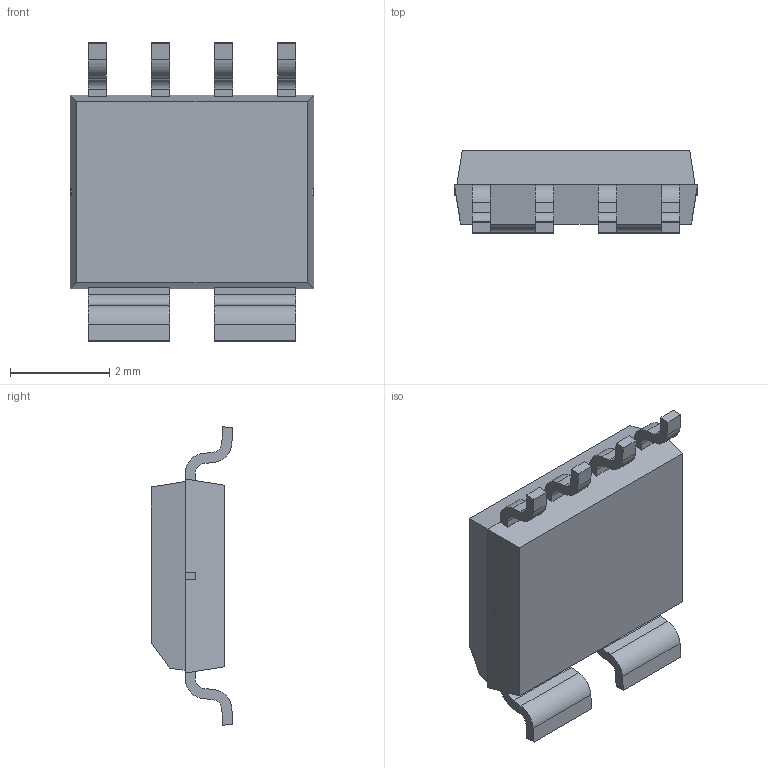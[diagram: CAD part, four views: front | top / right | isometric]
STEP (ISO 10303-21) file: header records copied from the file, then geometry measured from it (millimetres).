
FILE_DESCRIPTION (( 'STEP AP214' ), '1' );
FILE_NAME ('LZ_Model_No_Die.STEP', '2023-10-06T18:06:23', ( '' ), ( '' ), 'SwSTEP 2.0', 'SolidWorks 2019', '' );
FILE_SCHEMA (( 'AUTOMOTIVE_DESIGN' ));
Length unit declared in the file: millimetre
Products named in the file (5): LZ_Upper_Mold_050222.STEP; LZ_Model_No_Die.STEP; LZ_LF_050222.STEP; LZ_Model_No_Die; LZ_Lower_Mold_050222.STEP
Assembly tree (4 placements, depth 3):
  LZ_Model_No_Die
    LZ_Model_No_Die.STEP
      LZ_LF_050222.STEP
      LZ_Upper_Mold_050222.STEP
      LZ_Lower_Mold_050222.STEP
Bounding box: 4.89 x 1.65 x 6 mm (x, y, z)
Volume: 27.1 mm3; surface area: 117.9 mm2
Topology: 10 solids, 10 shells, 166 faces, 438 edges, 292 vertices
Faces by surface type: plane 142, cylinder 24
Entity records: 5317 total; most frequent: CARTESIAN_POINT 904, ORIENTED_EDGE 876, DIRECTION 834, EDGE_CURVE 438, VECTOR 390, LINE 390, VERTEX_POINT 292, AXIS2_PLACEMENT_3D 222
